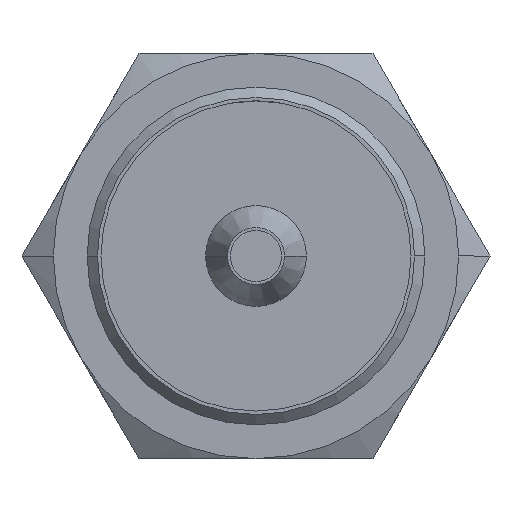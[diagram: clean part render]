
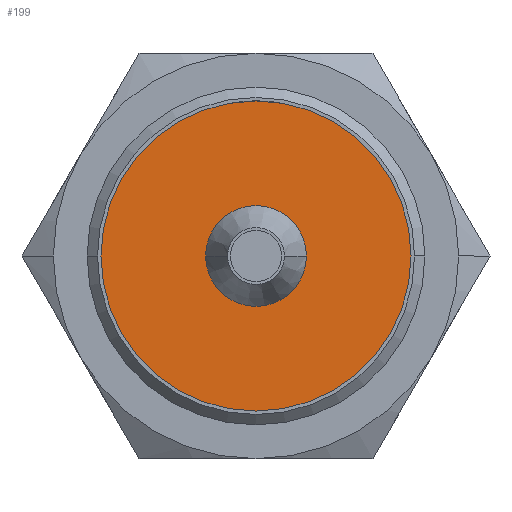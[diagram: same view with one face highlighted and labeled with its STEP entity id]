
A CAD part, left-side view. The second image highlights one B-rep face of the part: STEP entity #199.
In plain terms, the highlighted planar face has unit normal (-1, 0, 0).
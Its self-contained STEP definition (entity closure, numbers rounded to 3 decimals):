
#199 = ADVANCED_FACE( '', ( #329, #330 ), #331, .T. );
#329 = FACE_BOUND( '', #532, .T. );
#330 = FACE_OUTER_BOUND( '', #533, .T. );
#331 = PLANE( '', #534 );
#532 = EDGE_LOOP( '', ( #869, #870 ) );
#533 = EDGE_LOOP( '', ( #871, #872 ) );
#534 = AXIS2_PLACEMENT_3D( '', #873, #874, #875 );
#869 = ORIENTED_EDGE( '', *, *, #1361, .F. );
#870 = ORIENTED_EDGE( '', *, *, #1415, .F. );
#871 = ORIENTED_EDGE( '', *, *, #1367, .T. );
#872 = ORIENTED_EDGE( '', *, *, #1414, .T. );
#873 = CARTESIAN_POINT( '', ( 18., 8.487, 0. ) );
#874 = DIRECTION( '', ( -1., 0., 0. ) );
#875 = DIRECTION( '', ( 0., 1., 0. ) );
#1361 = EDGE_CURVE( '', #1565, #1568, #1569, .T. );
#1367 = EDGE_CURVE( '', #1574, #1578, #1580, .T. );
#1414 = EDGE_CURVE( '', #1578, #1574, #1656, .T. );
#1415 = EDGE_CURVE( '', #1568, #1565, #1657, .T. );
#1565 = VERTEX_POINT( '', #1883 );
#1568 = VERTEX_POINT( '', #1887 );
#1569 = CIRCLE( '', #1888, 3.2 );
#1574 = VERTEX_POINT( '', #1894 );
#1578 = VERTEX_POINT( '', #1899 );
#1580 = CIRCLE( '', #1902, 13.773 );
#1656 = CIRCLE( '', #2045, 13.773 );
#1657 = CIRCLE( '', #2046, 3.2 );
#1883 = CARTESIAN_POINT( '', ( 18., 3.2, 0. ) );
#1887 = CARTESIAN_POINT( '', ( 18., -3.2, 0. ) );
#1888 = AXIS2_PLACEMENT_3D( '', #2733, #2734, #2735 );
#1894 = CARTESIAN_POINT( '', ( 18., 13.773, 0. ) );
#1899 = CARTESIAN_POINT( '', ( 18., -13.773, 0. ) );
#1902 = AXIS2_PLACEMENT_3D( '', #2745, #2746, #2747 );
#2045 = AXIS2_PLACEMENT_3D( '', #2845, #2846, #2847 );
#2046 = AXIS2_PLACEMENT_3D( '', #2848, #2849, #2850 );
#2733 = CARTESIAN_POINT( '', ( 18., 0., 0. ) );
#2734 = DIRECTION( '', ( -1., 0., 0. ) );
#2735 = DIRECTION( '', ( 0., 1., 0. ) );
#2745 = CARTESIAN_POINT( '', ( 18., 0., 0. ) );
#2746 = DIRECTION( '', ( -1., 0., 0. ) );
#2747 = DIRECTION( '', ( 0., 1., 0. ) );
#2845 = CARTESIAN_POINT( '', ( 18., 0., 0. ) );
#2846 = DIRECTION( '', ( -1., 0., 0. ) );
#2847 = DIRECTION( '', ( 0., 1., 0. ) );
#2848 = CARTESIAN_POINT( '', ( 18., 0., 0. ) );
#2849 = DIRECTION( '', ( -1., 0., 0. ) );
#2850 = DIRECTION( '', ( 0., 1., 0. ) );
